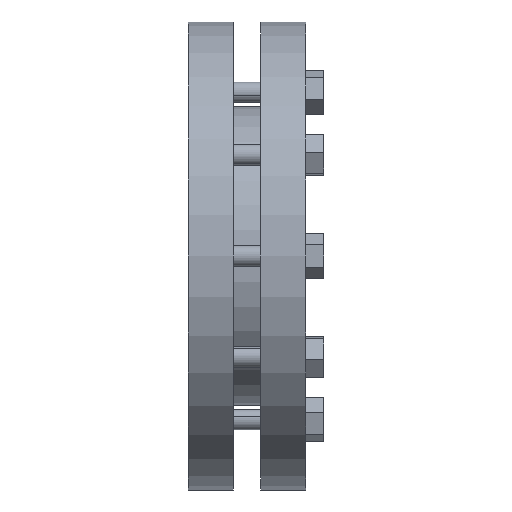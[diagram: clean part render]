
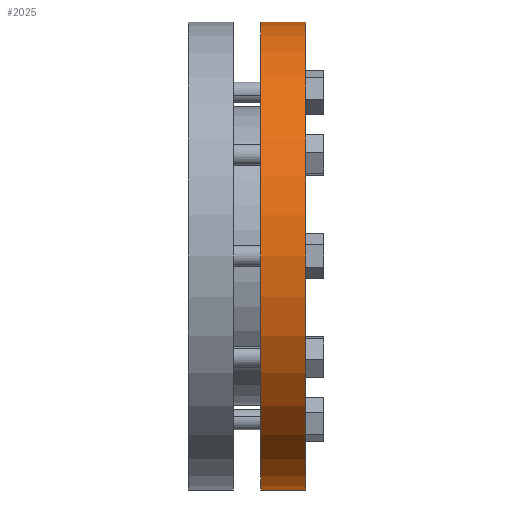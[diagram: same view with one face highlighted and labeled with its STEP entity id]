
A CAD part, front view. The second image highlights one B-rep face of the part: STEP entity #2025.
In plain terms, the highlighted cylindrical face has radius 77.5 mm (diameter 155 mm), a partial arc.
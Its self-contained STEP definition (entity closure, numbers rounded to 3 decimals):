
#1599 = DIRECTION ( 'NONE',  ( 0., 0., 1. ) ) ;
#1600 = DIRECTION ( 'NONE',  ( -1., 0., 0. ) ) ;
#1601 = CARTESIAN_POINT ( 'NONE',  ( 39., 0., 0. ) ) ;
#1602 = AXIS2_PLACEMENT_3D ( 'NONE', #1601, #1600, #1599 ) ;
#1603 = CIRCLE ( 'NONE', #1602, 77.5 ) ;
#1643 = DIRECTION ( 'NONE',  ( -1., 0., 0. ) ) ;
#1644 = VECTOR ( 'NONE', #1643, 1000. ) ;
#1645 = CARTESIAN_POINT ( 'NONE',  ( 0., 0., -77.5 ) ) ;
#1646 = LINE ( 'NONE', #1645, #1644 ) ;
#1727 = CARTESIAN_POINT ( 'NONE',  ( 39., 0., 77.5 ) ) ;
#1756 = CARTESIAN_POINT ( 'NONE',  ( 24., 0., -77.5 ) ) ;
#1768 = DIRECTION ( 'NONE',  ( -1., 0., 0. ) ) ;
#1769 = VECTOR ( 'NONE', #1768, 1000. ) ;
#1770 = CARTESIAN_POINT ( 'NONE',  ( 0., 0., 77.5 ) ) ;
#1771 = LINE ( 'NONE', #1770, #1769 ) ;
#1789 = CARTESIAN_POINT ( 'NONE',  ( 24., 0., 77.5 ) ) ;
#1799 = CARTESIAN_POINT ( 'NONE',  ( 39., 0., -77.5 ) ) ;
#1964 = EDGE_CURVE ( 'NONE', #3796, #3780, #3864, .T. ) ;
#1966 = ORIENTED_EDGE ( 'NONE', *, *, #3748, .F. ) ;
#2025 = ADVANCED_FACE ( 'NONE', ( #3936 ), #3935, .T. ) ;
#2045 = ORIENTED_EDGE ( 'NONE', *, *, #3712, .T. ) ;
#2046 = ORIENTED_EDGE ( 'NONE', *, *, #3791, .T. ) ;
#2047 = ORIENTED_EDGE ( 'NONE', *, *, #1964, .F. ) ;
#2049 = EDGE_LOOP ( 'NONE', ( #1966, #2045, #2046, #2047 ) ) ;
#3712 = EDGE_CURVE ( 'NONE', #3821, #3764, #1603, .T. ) ;
#3748 = EDGE_CURVE ( 'NONE', #3821, #3796, #1646, .T. ) ;
#3764 = VERTEX_POINT ( 'NONE', #1727 ) ;
#3780 = VERTEX_POINT ( 'NONE', #1789 ) ;
#3791 = EDGE_CURVE ( 'NONE', #3764, #3780, #1771, .T. ) ;
#3796 = VERTEX_POINT ( 'NONE', #1756 ) ;
#3821 = VERTEX_POINT ( 'NONE', #1799 ) ;
#3864 = CIRCLE ( 'NONE', #3901, 77.5 ) ;
#3869 = DIRECTION ( 'NONE',  ( 0., 0., 1. ) ) ;
#3870 = DIRECTION ( 'NONE',  ( -1., 0., 0. ) ) ;
#3871 = CARTESIAN_POINT ( 'NONE',  ( 24., 0., 0. ) ) ;
#3901 = AXIS2_PLACEMENT_3D ( 'NONE', #3871, #3870, #3869 ) ;
#3930 = DIRECTION ( 'NONE',  ( 0., 0., 1. ) ) ;
#3931 = DIRECTION ( 'NONE',  ( -1., 0., 0. ) ) ;
#3932 = CARTESIAN_POINT ( 'NONE',  ( 0., 0., 0. ) ) ;
#3933 = AXIS2_PLACEMENT_3D ( 'NONE', #3932, #3931, #3930 ) ;
#3935 = CYLINDRICAL_SURFACE ( 'NONE', #3933, 77.5 ) ;
#3936 = FACE_OUTER_BOUND ( 'NONE', #2049, .T. ) ;
